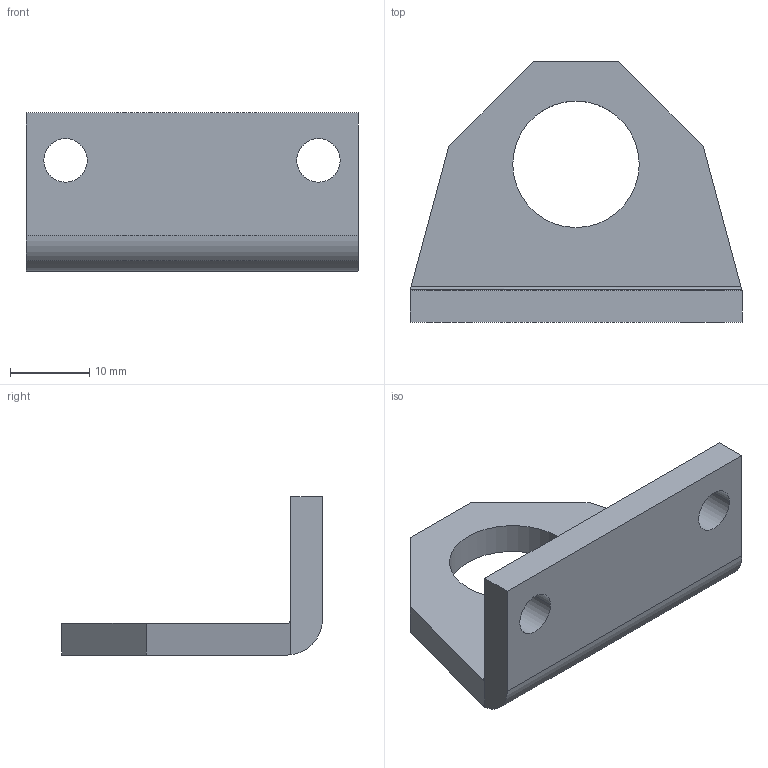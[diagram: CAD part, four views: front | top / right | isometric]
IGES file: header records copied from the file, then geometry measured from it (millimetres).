
Global section: file name: No Iges File Name specified; native system: AutoDesk Inventor R6.0; preprocessor: AutoDesk Inventor Iges Exporter R6.0; author: No Author specified; organization: No Organization specified; date: 20030408.081530; units: millimetre
Bounding box: 42 x 33 x 20 mm (x, y, z)
Volume: 5819.8 mm3; surface area: 3884.3 mm2
Topology: 1 solids, 1 shells, 22 faces, 58 edges, 38 vertices
Faces by surface type: plane 12, revolution 4, bspline 4, cylinder 2
